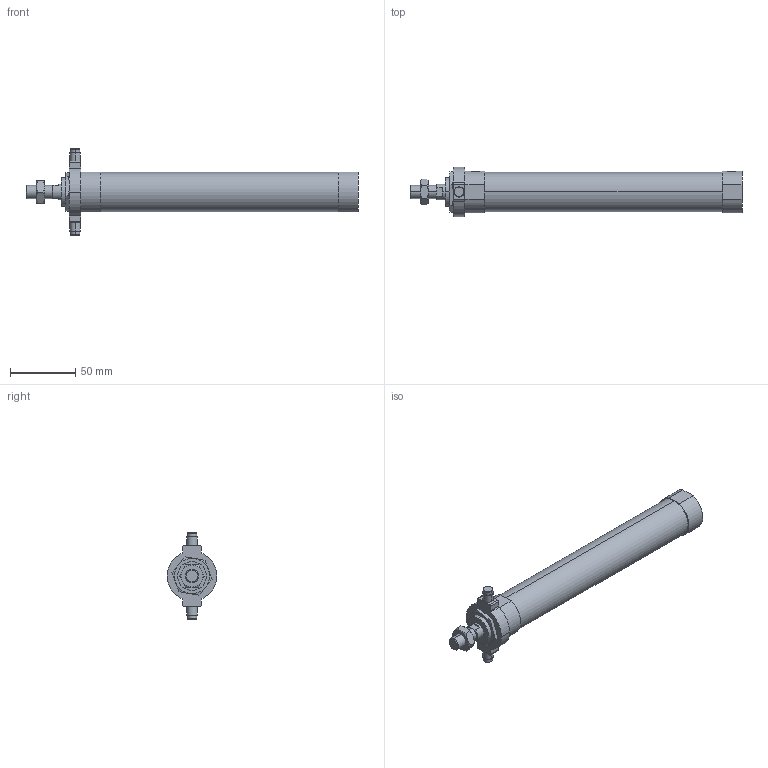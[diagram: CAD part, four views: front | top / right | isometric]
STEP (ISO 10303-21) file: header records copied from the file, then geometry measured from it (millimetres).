
FILE_DESCRIPTION (( 'STEP AP203' ), '1' );
FILE_NAME ('JGND2-25-150-T.STEP', '2016-08-04T02:43:17', ( '' ), ( '' ), 'SwSTEP 2.0', 'SolidWorks 2014', '' );
FILE_SCHEMA (( 'CONFIG_CONTROL_DESIGN' ));
Length unit declared in the file: millimetre
Products named in the file (5): J#2-25-T; J#2-25-150(P); JGND2-25-150-T
Assembly tree (4 placements, depth 2):
  JGND2-25-150-T
    J#2-25-150(P)
    (unnamed)
    J#2-25-T
    (unnamed)
Bounding box: 254 x 38 x 66 mm (x, y, z)
Volume: 168337.4 mm3; surface area: 31065.8 mm2
Topology: 4 solids, 4 shells, 128 faces, 291 edges, 174 vertices
Faces by surface type: plane 45, cylinder 43, torus 24, cone 16
Entity records: 4380 total; most frequent: CARTESIAN_POINT 1020, DIRECTION 619, ORIENTED_EDGE 574, EDGE_CURVE 287, AXIS2_PLACEMENT_3D 253, VERTEX_POINT 174, EDGE_LOOP 141, FACE_OUTER_BOUND 128
